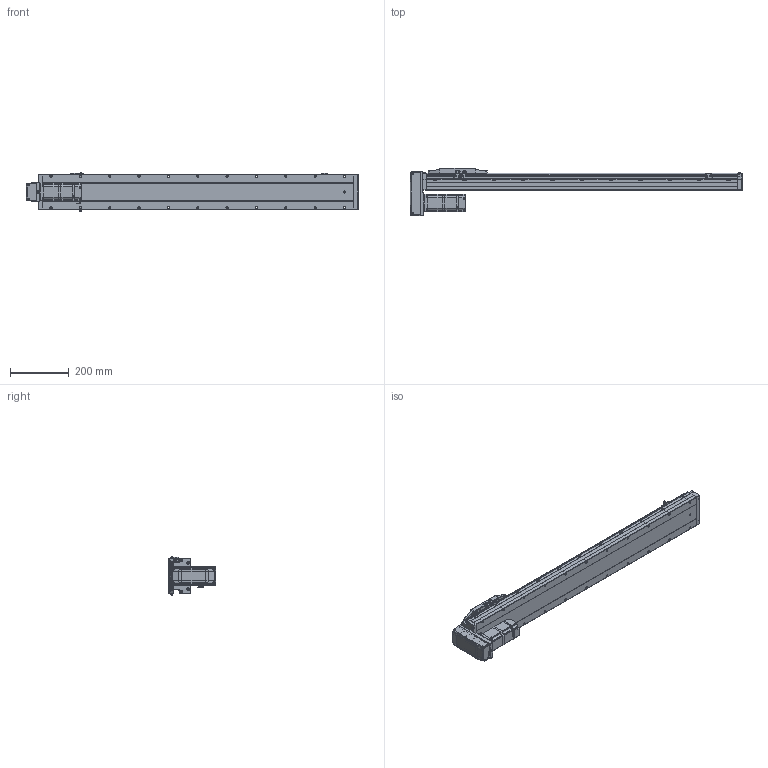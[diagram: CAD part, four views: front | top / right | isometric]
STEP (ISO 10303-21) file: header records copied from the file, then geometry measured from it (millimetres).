
FILE_DESCRIPTION (( 'STEP AP214' ), '1' );
FILE_NAME ('CTH12-L10-S850-BM-C40（简）.STEP', '2023-02-04T06:45:57', ( '' ), ( '' ), 'SwSTEP 2.0', 'SolidWorks 2018', '' );
FILE_SCHEMA (( 'AUTOMOTIVE_DESIGN' ));
Length unit declared in the file: millimetre
Products named in the file (25): CTH12-L10-S850-BM-C40（简）; 内六角圆柱头螺钉M3; CTH12-BM-02; CTH400W垫板（3个厚）; AC60_Valor predeterminado; BM-C40; hex nuts, style 1-grades ab gb_GB_FASTENER_NUT_SNAB1 M3-N; 内六角圆柱头螺钉M3-1; CTH12覜茼え; 嫖萇羲壽郪磁2; 湮賑怢  裔赽-1(CTH12)賑怢; CTH12-BL_body_4; 嫖萇羲壽郪磁1; 内六角圆柱头螺钉M3-2; 蚐郲; CTH12賑怢ㄗ潠ㄘ; PM-Y45; CTH12賑怢郪磁; CTH8耜蚾蟀諉啣ㄗ潠ㄘ; CTH12; CTH400W假蚾啣; CTH12_body_3; CTH嫖萇羲壽假蚾啣; CTH12底座-L1061简（850行程）; 内六角圆柱头螺钉M5装饰螺钉
Assembly tree (45 placements, depth 4):
  CTH12-L10-S850-BM-C40（简）
    CTH12底座-L1061简（850行程）
    蚐郲  x2
    CTH12_body_3
    CTH12-BL_body_4
    CTH12賑怢郪磁
      CTH12
        湮賑怢  裔赽-1(CTH12)賑怢
        CTH12賑怢ㄗ潠ㄘ
    CTH12覜茼え
    嫖萇羲壽郪磁1  x2
      CTH嫖萇羲壽假蚾啣
      PM-Y45
      内六角圆柱头螺钉M3-2
      内六角圆柱头螺钉M3-1
      hex nuts, style 1-grades ab gb_GB_FASTENER_NUT_SNAB1 M3-N
    嫖萇羲壽郪磁2
      CTH嫖萇羲壽假蚾啣
      PM-Y45
      内六角圆柱头螺钉M3-1  x2
      内六角圆柱头螺钉M3-2  x2
      hex nuts, style 1-grades ab gb_GB_FASTENER_NUT_SNAB1 M3-N  x2
    BM-C40
      CTH12-BM-02
      CTH8耜蚾蟀諉啣ㄗ潠ㄘ
    CTH400W垫板（3个厚）
    AC60_Valor predeterminado
    内六角圆柱头螺钉M3  x6
    内六角圆柱头螺钉M5装饰螺钉  x4
    CTH400W假蚾啣
Bounding box: 1131.5 x 162.5 x 131.52 mm (x, y, z)
Volume: 7642686.4 mm3; surface area: 706064.7 mm2
Topology: 47 solids, 48 shells, 2874 faces, 7286 edges, 4631 vertices
Faces by surface type: plane 1534, cylinder 847, cone 327, bspline 114, torus 52
Entity records: 79761 total; most frequent: CARTESIAN_POINT 19085, ORIENTED_EDGE 11752, DIRECTION 11677, EDGE_CURVE 5876, AXIS2_PLACEMENT_3D 3979, VERTEX_POINT 3735, LINE 3719, VECTOR 3719
